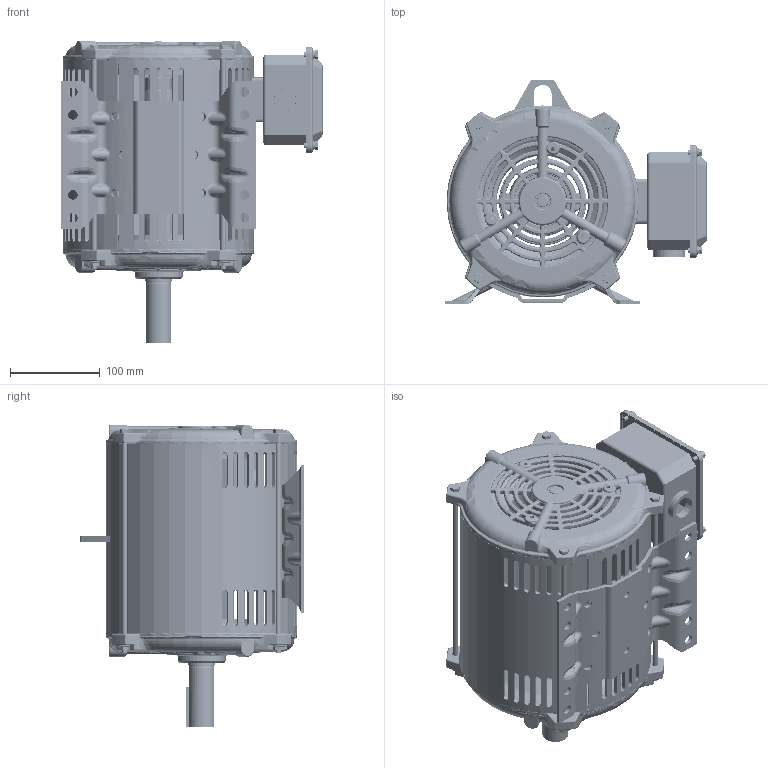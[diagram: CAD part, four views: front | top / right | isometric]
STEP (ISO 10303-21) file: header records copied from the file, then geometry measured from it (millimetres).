
FILE_DESCRIPTION (( 'STEP AP203' ), '1' );
FILE_NAME ('SS600227-200_RevC.STEP', '2021-06-22T13:06:43', ( '' ), ( '' ), 'SwSTEP 2.0', 'SolidWorks 2018', '' );
FILE_SCHEMA (( 'CONFIG_CONTROL_DESIGN' ));
Products named in the file (1): SS600227-200_RevC
Bounding box: 290.15 x 249.8 x 336.55 mm (x, y, z)
Volume: 1586051 mm3; surface area: 892425 mm2
Topology: 39 solids, 39 shells, 6430 faces, 15704 edges, 9203 vertices
Faces by surface type: bspline 2292, cylinder 1711, plane 924, torus 888, cone 442, sphere 173
Entity records: 290183 total; most frequent: CARTESIAN_POINT 159002, ORIENTED_EDGE 31118, DIRECTION 22683, EDGE_CURVE 15559, AXIS2_PLACEMENT_3D 9677, VERTEX_POINT 9188, EDGE_LOOP 6795, FACE_OUTER_BOUND 6430
